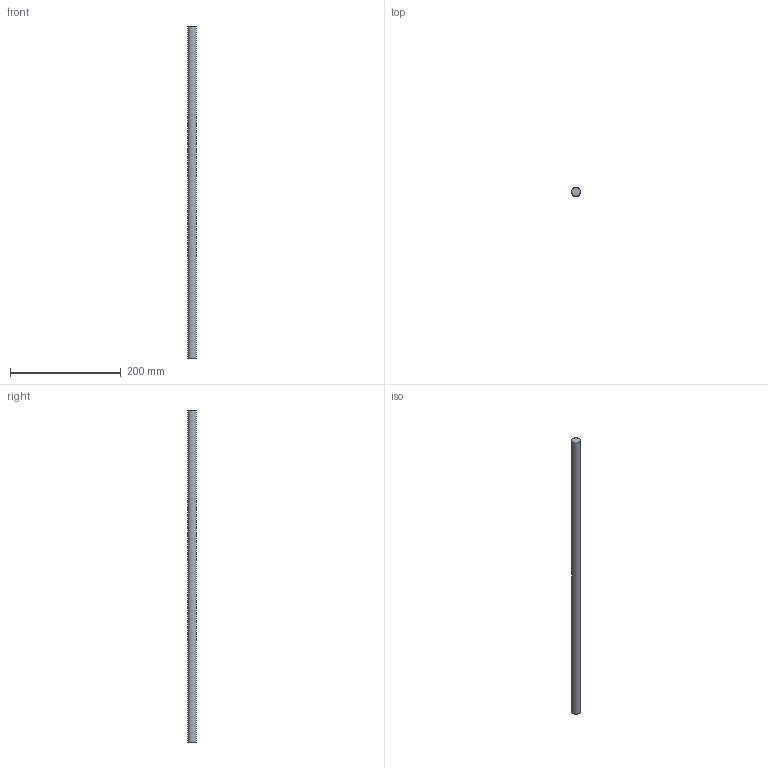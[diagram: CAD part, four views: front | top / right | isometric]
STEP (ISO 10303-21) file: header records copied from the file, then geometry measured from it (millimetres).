
FILE_DESCRIPTION(/* description */ (''),/* implementation_level */ '2;1');
FILE_NAME(/* name */ 'C:\Users\David\Desktop\stepFiles\Profilfuehrung\WF16x600.stp',/* time_stamp */ '2018-06-24T15:46:54+02:00',/* author */ ('David'),/* organization */ (''),/* preprocessor_version */ 'ST-DEVELOPER v17',/* originating_system */ 'Autodesk Inventor 2019',/* authorisation */ '');
FILE_SCHEMA (('AUTOMOTIVE_DESIGN { 1 0 10303 214 3 1 1 }'));
Length unit declared in the file: millimetre
Products named in the file (1): Wellenfuehrung
Bounding box: 16 x 16 x 600 mm (x, y, z)
Volume: 120637.2 mm3; surface area: 30561.4 mm2
Topology: 1 solids, 1 shells, 3 faces, 3 edges, 2 vertices
Faces by surface type: plane 2, cylinder 1
Full cylindrical faces by diameter (mm): 16 x1
Entity records: 98 total; most frequent: DIRECTION 13, CARTESIAN_POINT 9, ORIENTED_EDGE 6, AXIS2_PLACEMENT_3D 6, FACE_OUTER_BOUND 3, EDGE_LOOP 3, EDGE_CURVE 3, ADVANCED_FACE 3
